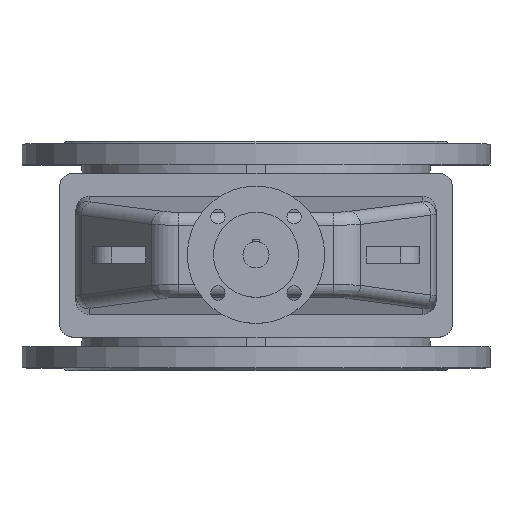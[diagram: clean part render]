
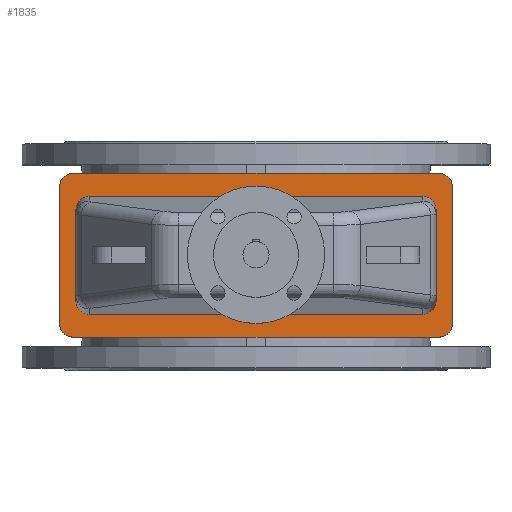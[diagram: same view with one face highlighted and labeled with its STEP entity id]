
A CAD part, top view. The second image highlights one B-rep face of the part: STEP entity #1835.
In plain terms, the highlighted planar face has unit normal (0, 0, 1).
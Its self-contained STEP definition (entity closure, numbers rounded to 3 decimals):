
#1835=ADVANCED_FACE('',(#5676,#5678),#5680,.T.);
#5676=FACE_BOUND('',#5677,.T.);
#5677=EDGE_LOOP('',(#7627,#7628,#7629,#7630,#7631,#7632,#7633,#7634));
#5678=FACE_BOUND('',#5679,.T.);
#5679=EDGE_LOOP('',(#7635,#7636,#7637,#7638,#7639,#7640,#7641,#7642));
#5680=PLANE('',#5681);
#5681=AXIS2_PLACEMENT_3D('',#5682,#5683,#5684);
#5682=CARTESIAN_POINT('',(0.,0.,666.));
#5683=DIRECTION('',(0.,-0.,1.));
#5684=DIRECTION('',(0.,1.,0.));
#7627=ORIENTED_EDGE('',*,*,#8335,.F.);
#7628=ORIENTED_EDGE('',*,*,#8348,.T.);
#7629=ORIENTED_EDGE('',*,*,#8347,.F.);
#7630=ORIENTED_EDGE('',*,*,#8345,.T.);
#7631=ORIENTED_EDGE('',*,*,#8343,.F.);
#7632=ORIENTED_EDGE('',*,*,#8341,.T.);
#7633=ORIENTED_EDGE('',*,*,#8339,.F.);
#7634=ORIENTED_EDGE('',*,*,#8336,.T.);
#7635=ORIENTED_EDGE('',*,*,#8349,.F.);
#7636=ORIENTED_EDGE('',*,*,#8350,.F.);
#7637=ORIENTED_EDGE('',*,*,#8351,.F.);
#7638=ORIENTED_EDGE('',*,*,#8352,.F.);
#7639=ORIENTED_EDGE('',*,*,#8353,.F.);
#7640=ORIENTED_EDGE('',*,*,#8354,.F.);
#7641=ORIENTED_EDGE('',*,*,#8355,.F.);
#7642=ORIENTED_EDGE('',*,*,#8356,.F.);
#8335=EDGE_CURVE('',#9235,#9233,#9237,.F.);
#8336=EDGE_CURVE('',#9238,#9233,#9239,.T.);
#8339=EDGE_CURVE('',#9238,#9241,#9243,.F.);
#8341=EDGE_CURVE('',#9244,#9241,#9246,.T.);
#8343=EDGE_CURVE('',#9244,#9247,#9249,.F.);
#8345=EDGE_CURVE('',#9250,#9247,#9252,.T.);
#8347=EDGE_CURVE('',#9250,#9253,#9255,.F.);
#8348=EDGE_CURVE('',#9235,#9253,#9256,.T.);
#8349=EDGE_CURVE('',#9257,#9258,#9259,.F.);
#8350=EDGE_CURVE('',#9260,#9257,#9261,.T.);
#8351=EDGE_CURVE('',#9262,#9260,#9263,.T.);
#8352=EDGE_CURVE('',#9264,#9262,#9265,.T.);
#8353=EDGE_CURVE('',#9266,#9264,#9267,.F.);
#8354=EDGE_CURVE('',#9268,#9266,#9269,.T.);
#8355=EDGE_CURVE('',#9270,#9268,#9271,.T.);
#8356=EDGE_CURVE('',#9258,#9270,#9272,.T.);
#9233=VERTEX_POINT('',#11793);
#9235=VERTEX_POINT('',#11797);
#9237=CIRCLE('',#11801,20.);
#9238=VERTEX_POINT('',#11805);
#9239=LINE('',#11806,#11807);
#9241=VERTEX_POINT('',#11812);
#9243=CIRCLE('',#11816,20.);
#9244=VERTEX_POINT('',#11820);
#9246=LINE('',#11824,#11825);
#9247=VERTEX_POINT('',#11827);
#9249=CIRCLE('',#11831,20.);
#9250=VERTEX_POINT('',#11835);
#9252=LINE('',#11839,#11840);
#9253=VERTEX_POINT('',#11842);
#9255=CIRCLE('',#11846,20.);
#9256=LINE('',#11850,#11851);
#9257=VERTEX_POINT('',#11853);
#9258=VERTEX_POINT('',#11854);
#9259=(BOUNDED_CURVE()B_SPLINE_CURVE(3,
(#11855,#11856,#11857,#11858),
.UNSPECIFIED.,.F.,.F.)B_SPLINE_CURVE_WITH_KNOTS((4,4),
(0.,1.),
.UNSPECIFIED.)CURVE()GEOMETRIC_REPRESENTATION_ITEM()RATIONAL_B_SPLINE_CURVE((1.,
0.805,0.805,1.))REPRESENTATION_ITEM(''));
#9260=VERTEX_POINT('',#11859);
#9261=LINE('',#11860,#11861);
#9262=VERTEX_POINT('',#11863);
#9263=(BOUNDED_CURVE()B_SPLINE_CURVE(3,
(#11864,#11865,#11866,#11867),
.UNSPECIFIED.,.F.,.F.)B_SPLINE_CURVE_WITH_KNOTS((4,4),
(0.,1.),
.UNSPECIFIED.)CURVE()GEOMETRIC_REPRESENTATION_ITEM()RATIONAL_B_SPLINE_CURVE((1.,
0.805,0.805,1.))REPRESENTATION_ITEM(''));
#9264=VERTEX_POINT('',#11868);
#9265=LINE('',#11869,#11870);
#9266=VERTEX_POINT('',#11872);
#9267=(BOUNDED_CURVE()B_SPLINE_CURVE(3,
(#11873,#11874,#11875,#11876),
.UNSPECIFIED.,.F.,.F.)B_SPLINE_CURVE_WITH_KNOTS((4,4),
(0.,1.),
.UNSPECIFIED.)CURVE()GEOMETRIC_REPRESENTATION_ITEM()RATIONAL_B_SPLINE_CURVE((1.,
0.805,0.805,1.))REPRESENTATION_ITEM(''));
#9268=VERTEX_POINT('',#11877);
#9269=LINE('',#11878,#11879);
#9270=VERTEX_POINT('',#11881);
#9271=(BOUNDED_CURVE()B_SPLINE_CURVE(3,
(#11882,#11883,#11884,#11885),
.UNSPECIFIED.,.F.,.F.)B_SPLINE_CURVE_WITH_KNOTS((4,4),
(0.,1.),
.UNSPECIFIED.)CURVE()GEOMETRIC_REPRESENTATION_ITEM()RATIONAL_B_SPLINE_CURVE((1.,
0.805,0.805,1.))REPRESENTATION_ITEM(''));
#9272=LINE('',#11886,#11887);
#11793=CARTESIAN_POINT('',(-300.,-105.,666.));
#11797=CARTESIAN_POINT('',(-280.,-125.,666.));
#11801=AXIS2_PLACEMENT_3D('',#11802,#11803,#11804);
#11802=CARTESIAN_POINT('',(-280.,-105.,666.));
#11803=DIRECTION('',(0.,-0.,1.));
#11804=DIRECTION('',(-1.,0.,0.));
#11805=CARTESIAN_POINT('',(-300.,105.,666.));
#11806=CARTESIAN_POINT('',(-300.,105.,666.));
#11807=VECTOR('',#11808,1.);
#11808=DIRECTION('',(0.,-1.,0.));
#11812=CARTESIAN_POINT('',(-280.,125.,666.));
#11816=AXIS2_PLACEMENT_3D('',#11817,#11818,#11819);
#11817=CARTESIAN_POINT('',(-280.,105.,666.));
#11818=DIRECTION('',(0.,-0.,1.));
#11819=DIRECTION('',(0.,1.,0.));
#11820=CARTESIAN_POINT('',(280.,125.,666.));
#11824=CARTESIAN_POINT('',(280.,125.,666.));
#11825=VECTOR('',#11826,1.);
#11826=DIRECTION('',(-1.,0.,0.));
#11827=CARTESIAN_POINT('',(300.,105.,666.));
#11831=AXIS2_PLACEMENT_3D('',#11832,#11833,#11834);
#11832=CARTESIAN_POINT('',(280.,105.,666.));
#11833=DIRECTION('',(0.,-0.,1.));
#11834=DIRECTION('',(1.,0.,0.));
#11835=CARTESIAN_POINT('',(300.,-105.,666.));
#11839=CARTESIAN_POINT('',(300.,-105.,666.));
#11840=VECTOR('',#11841,1.);
#11841=DIRECTION('',(0.,1.,0.));
#11842=CARTESIAN_POINT('',(280.,-125.,666.));
#11846=AXIS2_PLACEMENT_3D('',#11847,#11848,#11849);
#11847=CARTESIAN_POINT('',(280.,-105.,666.));
#11848=DIRECTION('',(0.,-0.,1.));
#11849=DIRECTION('',(0.,-1.,0.));
#11850=CARTESIAN_POINT('',(-280.,-125.,666.));
#11851=VECTOR('',#11852,1.);
#11852=DIRECTION('',(1.,0.,0.));
#11853=CARTESIAN_POINT('',(255.,-90.,666.));
#11854=CARTESIAN_POINT('',(275.,-69.924,666.));
#11855=CARTESIAN_POINT('',(275.,-69.924,666.));
#11856=CARTESIAN_POINT('',(275.,-81.684,666.));
#11857=CARTESIAN_POINT('',(266.716,-90.,666.));
#11858=CARTESIAN_POINT('',(255.,-90.,666.));
#11859=CARTESIAN_POINT('',(-255.,-90.,666.));
#11860=CARTESIAN_POINT('',(-255.,-90.,666.));
#11861=VECTOR('',#11862,1.);
#11862=DIRECTION('',(1.,0.,0.));
#11863=CARTESIAN_POINT('',(-275.,-69.924,666.));
#11864=CARTESIAN_POINT('',(-275.,-69.924,666.));
#11865=CARTESIAN_POINT('',(-275.,-81.684,666.));
#11866=CARTESIAN_POINT('',(-266.716,-90.,666.));
#11867=CARTESIAN_POINT('',(-255.,-90.,666.));
#11868=CARTESIAN_POINT('',(-275.,69.924,666.));
#11869=CARTESIAN_POINT('',(-275.,69.924,666.));
#11870=VECTOR('',#11871,1.);
#11871=DIRECTION('',(0.,-1.,0.));
#11872=CARTESIAN_POINT('',(-255.,90.,666.));
#11873=CARTESIAN_POINT('',(-275.,69.924,666.));
#11874=CARTESIAN_POINT('',(-275.,81.684,666.));
#11875=CARTESIAN_POINT('',(-266.716,90.,666.));
#11876=CARTESIAN_POINT('',(-255.,90.,666.));
#11877=CARTESIAN_POINT('',(255.,90.,666.));
#11878=CARTESIAN_POINT('',(255.,90.,666.));
#11879=VECTOR('',#11880,1.);
#11880=DIRECTION('',(-1.,0.,0.));
#11881=CARTESIAN_POINT('',(275.,69.924,666.));
#11882=CARTESIAN_POINT('',(275.,69.924,666.));
#11883=CARTESIAN_POINT('',(275.,81.684,666.));
#11884=CARTESIAN_POINT('',(266.716,90.,666.));
#11885=CARTESIAN_POINT('',(255.,90.,666.));
#11886=CARTESIAN_POINT('',(275.,-69.924,666.));
#11887=VECTOR('',#11888,1.);
#11888=DIRECTION('',(0.,1.,0.));
